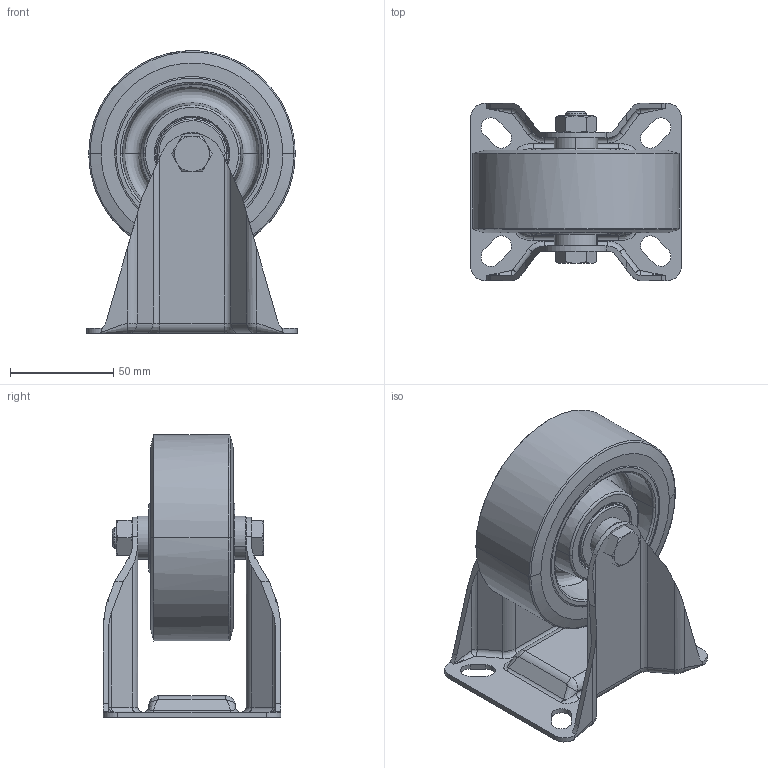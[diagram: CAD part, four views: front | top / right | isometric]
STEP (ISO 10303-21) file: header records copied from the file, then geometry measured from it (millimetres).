
FILE_DESCRIPTION (( 'STEP AP203' ), '1' );
FILE_NAME ('401524_.step', '2015-09-14T06:48:29', ( 'admin' ), ( 'Hewlett-Packard Company' ), 'SwSTEP 2.0', 'SolidWorks 2014', '' );
FILE_SCHEMA (( 'CONFIG_CONTROL_DESIGN' ));
Length unit declared in the file: millimetre
Products named in the file (1): 401524_
Bounding box: 102 x 86 x 137 mm (x, y, z)
Surface area: 103928.9 mm2 (no closed solid volume)
Topology: 0 solids, 9 shells, 384 faces, 935 edges, 572 vertices
Faces by surface type: bspline 134, plane 128, cylinder 110, cone 8, torus 4
Entity records: 30878 total; most frequent: CARTESIAN_POINT 23146, ORIENTED_EDGE 1792, DIRECTION 1104, EDGE_CURVE 923, VERTEX_POINT 570, EDGE_LOOP 422, B_SPLINE_CURVE_WITH_KNOTS 419, ADVANCED_FACE 382
